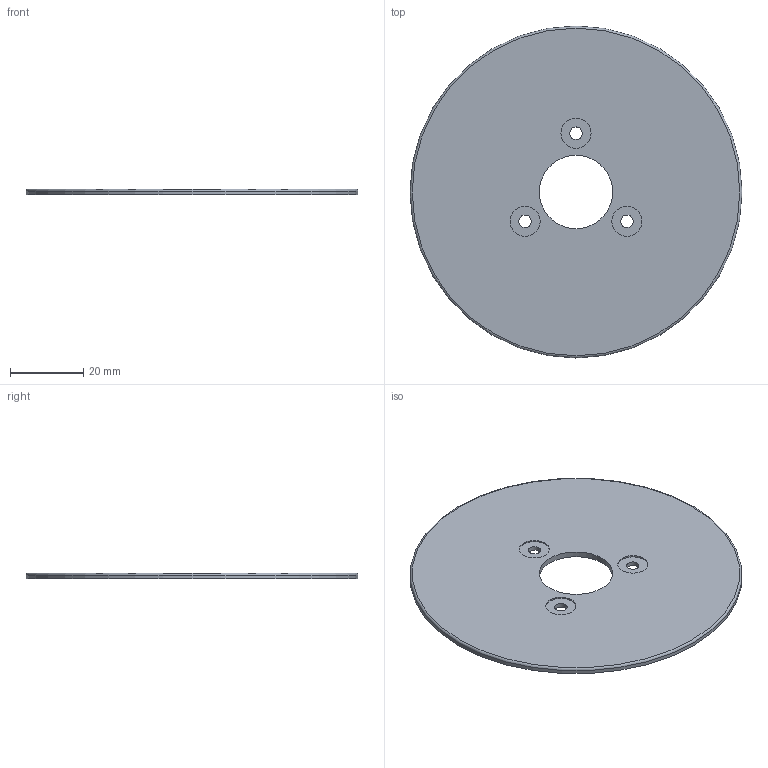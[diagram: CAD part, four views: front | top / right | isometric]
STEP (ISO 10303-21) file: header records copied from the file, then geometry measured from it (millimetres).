
FILE_DESCRIPTION(('Open CASCADE Model'),'2;1');
FILE_NAME('Open CASCADE Shape Model','2026-11-01T16:28:02',('Author'),( 'Open CASCADE'),'Open CASCADE STEP processor 8.0','build123d', 'Unknown');
FILE_SCHEMA(('AUTOMOTIVE_DESIGN { 1 0 10303 214 1 1 1 1 }'));
Length unit declared in the file: millimetre
Products named in the file (1): COMPOUND
Bounding box: 90.4 x 90.4 x 1.6 mm (x, y, z)
Volume: 9648.9 mm3; surface area: 12705 mm2
Topology: 1 solids, 1 shells, 14 faces, 26 edges, 17 vertices
Faces by surface type: cylinder 8, plane 5, torus 1
Full cylindrical faces by diameter (mm): 3.4 x3, 8.2 x3, 20 x1, 90.4 x1
Entity records: 722 total; most frequent: DIRECTION 124, CARTESIAN_POINT 112, ORIENTED_EDGE 52, PCURVE 52, DEFINITIONAL_REPRESENTATION 52, LINE 42, VECTOR 42, CIRCLE 34
